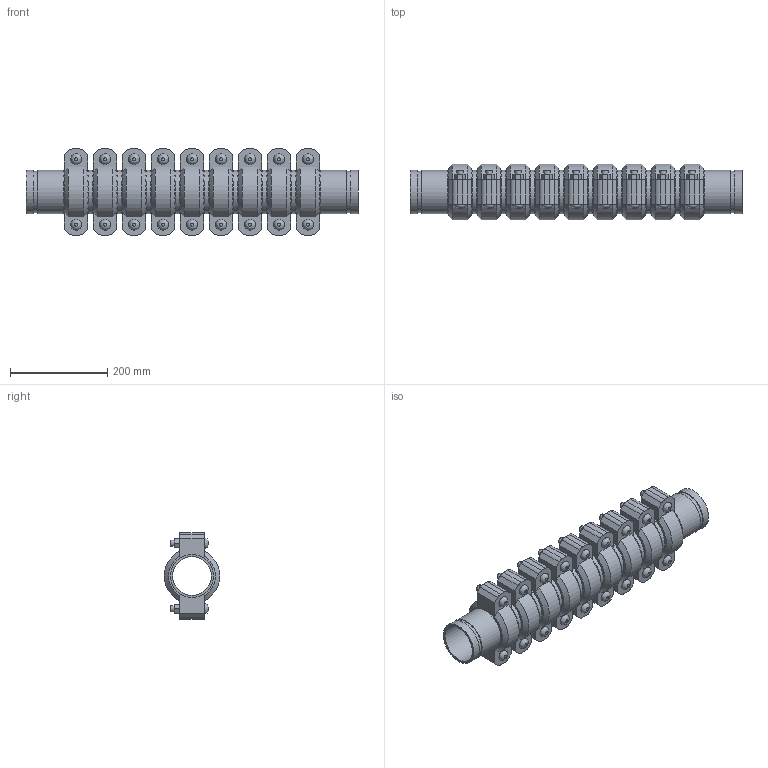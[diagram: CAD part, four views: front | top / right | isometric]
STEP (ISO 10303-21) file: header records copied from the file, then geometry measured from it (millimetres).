
FILE_DESCRIPTION(/* description */ ('VIC SS EXPANSION JOINT 9 COUPLINGS NEUTRAL STYLE 155P (OGS) (POTABLE WATER) ','CAx-IF Rec.Pracs.---Representation and Presentation of Product Manufacturing Information (PMI)---4.0---2014-10-13'),/* implementation_level */ '2;1');
FILE_NAME(/* name */ 'C:\Users\kkamble\AppData\Roaming\Autodesk\ApplicationPlugins\Victaulic.Temp\A561\Victaulic_SS_Expansion Joint_Neutral_9 Couplings_Style 155P (OGS)-Potable Water_9 Coup_Neut_3 (80).stp',/* time_stamp */ '2021-07-16T16:39:57+05:00',/* author */ ('kkamble'),/* organization */ ('Victaulic'),/* preprocessor_version */ 'ST-DEVELOPER v17.2',/* originating_system */ 'Autodesk Inventor 2019',/* authorisation */ '');
FILE_SCHEMA (('AP242_MANAGED_MODEL_BASED_3D_ENGINEERING_MIM_LF { 1 0 10303 442 1 1 4 }'));
Length unit declared in the file: inch
Products named in the file (4): 155P-03.0; Nipple-03.0; Nipple-03.0_1; 075-03.0
Assembly tree (19 placements, depth 2):
  155P-03.0
    Nipple-03.0  x2
    Nipple-03.0_1  x8
    075-03.0  x9
Bounding box: 681.99 x 113.88 x 177.8 mm (x, y, z)
Volume: 3749160 mm3; surface area: 943161.9 mm2
Topology: 19 solids, 37 shells, 633 faces, 1497 edges, 1050 vertices
Faces by surface type: plane 384, cylinder 195, cone 36, bspline 18
Full cylindrical faces by diameter (mm): 12.7 x36, 14.605 x18, 79.35 x10, 82.55 x9, 84.938 x20, 88.9 x48
Entity records: 2865 total; most frequent: CARTESIAN_POINT 503, DIRECTION 481, ORIENTED_EDGE 386, AXIS2_PLACEMENT_3D 194, EDGE_CURVE 193, VERTEX_POINT 138, EDGE_LOOP 107, LINE 93
